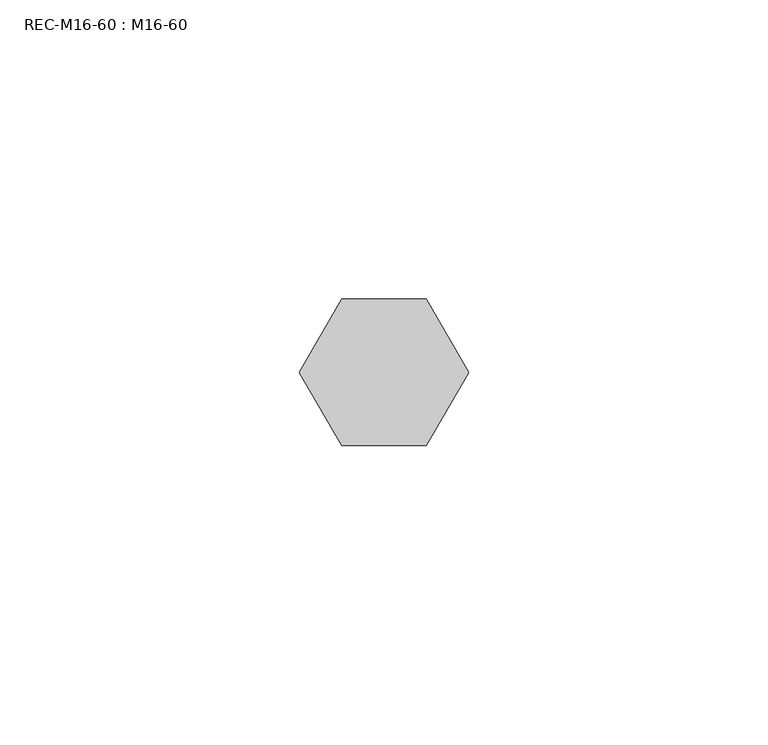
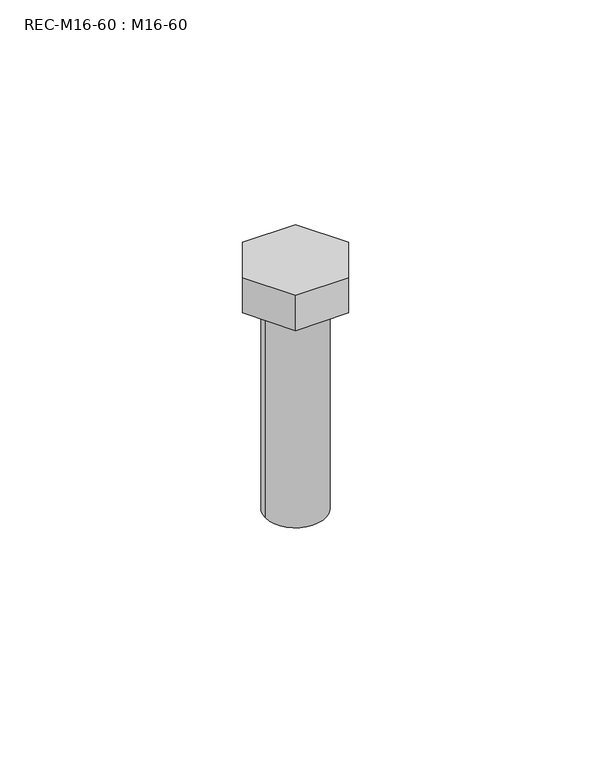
"""IFC4 building model written with IfcOpenShell, lengths in millimetres: fastener geometry, REC-M16-60 : M16-60."""

from ifc_helpers import new_model, si_unit, point, frame, origin, origin_with_axes, origin_2d, place, context, project, spatial, polyline, circle_curve, trimmed, segment, composite_curve, outline, extrude, source, transform, mapped, element, save


def rec_m16_60_m16_60_dda11d1f(model_context):
    return source(origin(), model_context, "Body", "SweptSolid", [
        extrude(outline(polyline([(-7.0686036, -12.2431805), (-14.1372072, 0.0), (-7.0686036, 12.2431805), (7.0686036, 12.2431805), (14.1372072, 0.0), (7.0686036, -12.2431805), (-7.0686036, -12.2431805)])), origin_with_axes(), (0.0, 0.0, 1.0), 10.0),
        extrude(outline(composite_curve([segment(trimmed(circle_curve(origin_2d(), 8.0), [point((-8.0, 0.0))], [point((8.0, 0.0))], False, "CARTESIAN"), True, "CONTINUOUS"), segment(trimmed(circle_curve(origin_2d(), 8.0), [point((8.0, 0.0))], [point((-8.0, 0.0))], False, "CARTESIAN"), True, "CONTINUOUS")], self_intersect=False)), frame((0.0, 0.0, -60.0), z_axis=(0.0, 0.0, 1.0), x_axis=(1.0, 0.0, 0.0)), (0.0, 0.0, 1.0), 60.0),
    ])


if __name__ == "__main__":
    model = new_model("IFC4")
    model_context = context("Model", 3, world=origin())
    ifc_project = project(units=[si_unit("LENGTHUNIT", "METRE", prefix="MILLI")], contexts=[model_context])
    site = spatial("IfcSite", under=ifc_project)
    building = spatial("IfcBuilding", under=site)
    placement = place(None, origin())
    rec_m16_60_m16_60_shape = rec_m16_60_m16_60_dda11d1f(model_context)
    element("IfcFastener", 1, ObjectType="REC-M16-60 : M16-60", at=placement, inside=building, context=model_context, shape_type="MappedRepresentation", body=[
        mapped(rec_m16_60_m16_60_shape, transform((0.0, 0.0, 0.0), x_axis=(1.0, 0.0, 0.0), y_axis=(0.0, 1.0, 0.0), z_axis=(0.0, 0.0, 1.0))),
    ])
    save(model, "model.ifc")
